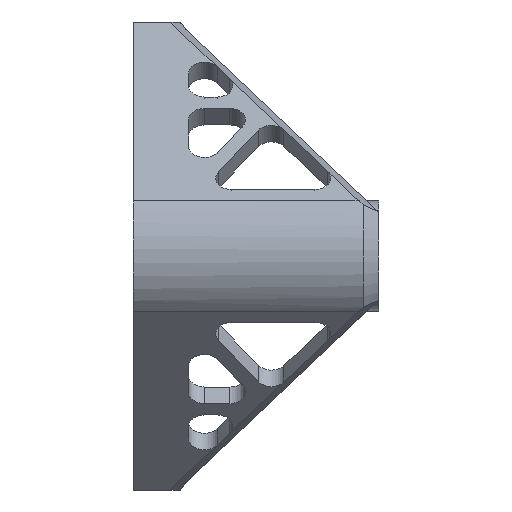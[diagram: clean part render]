
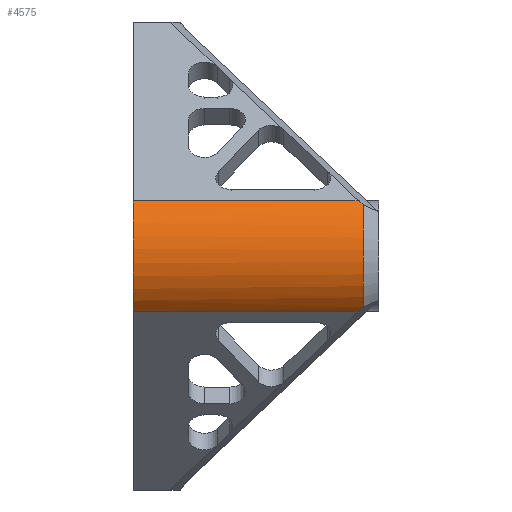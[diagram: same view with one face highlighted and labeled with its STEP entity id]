
A CAD part, left-side view. The second image highlights one B-rep face of the part: STEP entity #4575.
In plain terms, the highlighted cylindrical face has radius 10 mm (diameter 20 mm), a partial arc.
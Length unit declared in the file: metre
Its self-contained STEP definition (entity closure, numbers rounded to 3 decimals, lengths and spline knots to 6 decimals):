
#18=ELLIPSE('',#4986,0.017771,0.01);
#19=ELLIPSE('',#4988,0.017771,0.01);
#31=CIRCLE('',#4721,0.01);
#192=CIRCLE('',#4987,0.01);
#301=CYLINDRICAL_SURFACE('',#4985,0.01);
#1121=ORIENTED_EDGE('',*,*,#2203,.T.);
#1122=ORIENTED_EDGE('',*,*,#2204,.T.);
#1123=ORIENTED_EDGE('',*,*,#2205,.T.);
#1124=ORIENTED_EDGE('',*,*,#2206,.T.);
#1125=ORIENTED_EDGE('',*,*,#2199,.F.);
#1126=ORIENTED_EDGE('',*,*,#1771,.F.);
#1771=EDGE_CURVE('',#2463,#2464,#31,.F.);
#2199=EDGE_CURVE('',#2464,#2781,#3175,.F.);
#2203=EDGE_CURVE('',#2463,#2782,#3179,.T.);
#2204=EDGE_CURVE('',#2782,#2783,#18,.F.);
#2205=EDGE_CURVE('',#2783,#2784,#192,.F.);
#2206=EDGE_CURVE('',#2784,#2781,#19,.T.);
#2463=VERTEX_POINT('',#6600);
#2464=VERTEX_POINT('',#6602);
#2781=VERTEX_POINT('',#7450);
#2782=VERTEX_POINT('',#7456);
#2783=VERTEX_POINT('',#7458);
#2784=VERTEX_POINT('',#7460);
#3175=LINE('',#7449,#3635);
#3179=LINE('',#7455,#3639);
#3635=VECTOR('',#6010,1.);
#3639=VECTOR('',#6016,1.);
#3951=EDGE_LOOP('',(#1121,#1122,#1123,#1124,#1125,#1126));
#4223=FACE_BOUND('',#3951,.T.);
#4575=ADVANCED_FACE('',(#4223),#301,.T.);
#4721=AXIS2_PLACEMENT_3D('',#6601,#5215,#5216);
#4985=AXIS2_PLACEMENT_3D('',#7454,#6014,#6015);
#4986=AXIS2_PLACEMENT_3D('',#7457,#6017,#6018);
#4987=AXIS2_PLACEMENT_3D('',#7459,#6019,#6020);
#4988=AXIS2_PLACEMENT_3D('',#7461,#6021,#6022);
#5215=DIRECTION('',(0.,-1.,0.));
#5216=DIRECTION('',(0.,0.,-1.));
#6010=DIRECTION('',(0.,1.,0.));
#6014=DIRECTION('',(0.,-1.,0.));
#6015=DIRECTION('',(0.,0.,-1.));
#6016=DIRECTION('',(0.,-1.,0.));
#6017=DIRECTION('',(-0.211,-0.563,-0.799));
#6018=DIRECTION('',(0.144,-0.827,0.544));
#6019=DIRECTION('',(0.,-1.,0.));
#6020=DIRECTION('',(0.,0.,-1.));
#6021=DIRECTION('',(0.211,0.563,-0.799));
#6022=DIRECTION('',(0.144,-0.827,-0.544));
#6600=CARTESIAN_POINT('',(-0.050695,0.144,-0.006945));
#6601=CARTESIAN_POINT('',(-0.0435,0.144,0.));
#6602=CARTESIAN_POINT('',(-0.050695,0.144,0.006945));
#7449=CARTESIAN_POINT('',(-0.050695,0.150002,0.006945));
#7450=CARTESIAN_POINT('',(-0.050695,0.115513,0.006945));
#7454=CARTESIAN_POINT('',(-0.0435,0.178,0.));
#7455=CARTESIAN_POINT('',(-0.050695,0.178,-0.006945));
#7456=CARTESIAN_POINT('',(-0.050695,0.115513,-0.006945));
#7457=CARTESIAN_POINT('',(-0.0435,0.102947,0.));
#7458=CARTESIAN_POINT('',(-0.051125,0.115,-0.00647));
#7459=CARTESIAN_POINT('',(-0.0435,0.115,0.));
#7460=CARTESIAN_POINT('',(-0.051125,0.115,0.00647));
#7461=CARTESIAN_POINT('',(-0.0435,0.102947,0.));
